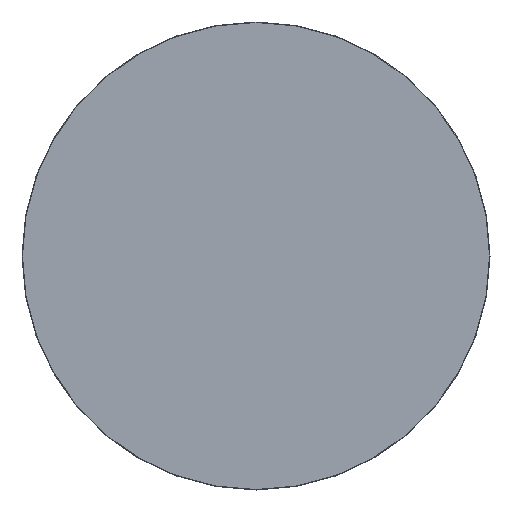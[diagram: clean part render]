
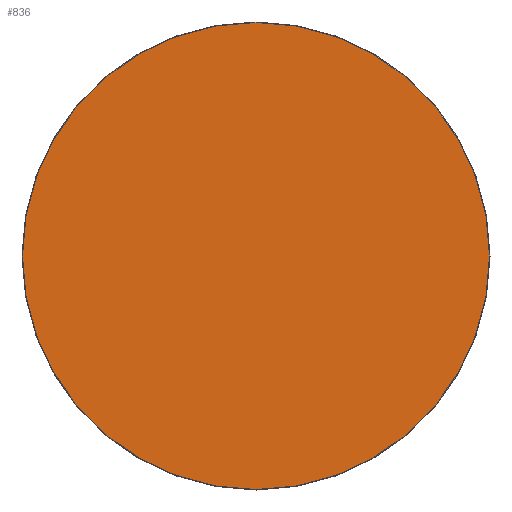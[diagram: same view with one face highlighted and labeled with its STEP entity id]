
A CAD part, left-side view. The second image highlights one B-rep face of the part: STEP entity #836.
In plain terms, the highlighted planar face has unit normal (-1, 0, 0).
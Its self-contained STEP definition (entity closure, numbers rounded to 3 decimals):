
#92 = AXIS2_PLACEMENT_3D ( 'NONE', #823, #1658, #1161 ) ;
#521 = DIRECTION ( 'NONE',  ( 0., 0., 1. ) ) ;
#530 = DIRECTION ( 'NONE',  ( -1., 0., 0. ) ) ;
#762 = EDGE_LOOP ( 'NONE', ( #1084, #887 ) ) ;
#823 = CARTESIAN_POINT ( 'NONE',  ( 0., 0., 0. ) ) ;
#836 = ADVANCED_FACE ( 'NONE', ( #962 ), #1506, .F. ) ;
#887 = ORIENTED_EDGE ( 'NONE', *, *, #1089, .T. ) ;
#962 = FACE_OUTER_BOUND ( 'NONE', #762, .T. ) ;
#1034 = VERTEX_POINT ( 'NONE', #1472 ) ;
#1049 = DIRECTION ( 'NONE',  ( 0., 0., 1. ) ) ;
#1084 = ORIENTED_EDGE ( 'NONE', *, *, #2134, .T. ) ;
#1089 = EDGE_CURVE ( 'NONE', #1933, #1034, #1605, .T. ) ;
#1161 = DIRECTION ( 'NONE',  ( 0., 0., -1. ) ) ;
#1244 = CARTESIAN_POINT ( 'NONE',  ( 0., 0., 0. ) ) ;
#1365 = CARTESIAN_POINT ( 'NONE',  ( 0., 0., 149.7 ) ) ;
#1370 = CARTESIAN_POINT ( 'NONE',  ( 0., 0., 0. ) ) ;
#1472 = CARTESIAN_POINT ( 'NONE',  ( 0., 0., -149.7 ) ) ;
#1506 = PLANE ( 'NONE',  #92 ) ;
#1605 = CIRCLE ( 'NONE', #1916, 149.7 ) ;
#1658 = DIRECTION ( 'NONE',  ( 1., 0., 0. ) ) ;
#1844 = DIRECTION ( 'NONE',  ( -1., 0., 0. ) ) ;
#1851 = CIRCLE ( 'NONE', #2142, 149.7 ) ;
#1916 = AXIS2_PLACEMENT_3D ( 'NONE', #1370, #1844, #521 ) ;
#1933 = VERTEX_POINT ( 'NONE', #1365 ) ;
#2134 = EDGE_CURVE ( 'NONE', #1034, #1933, #1851, .T. ) ;
#2142 = AXIS2_PLACEMENT_3D ( 'NONE', #1244, #530, #1049 ) ;
